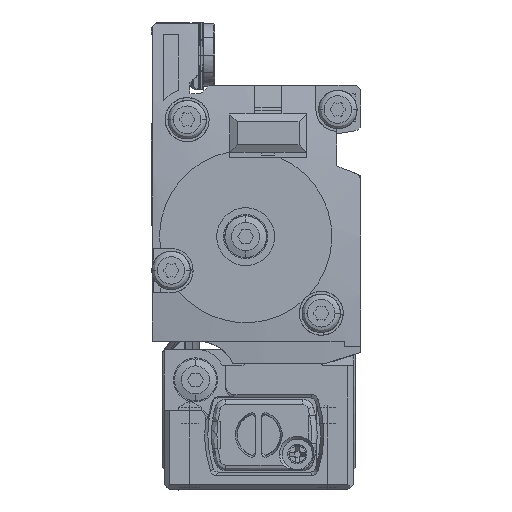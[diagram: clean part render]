
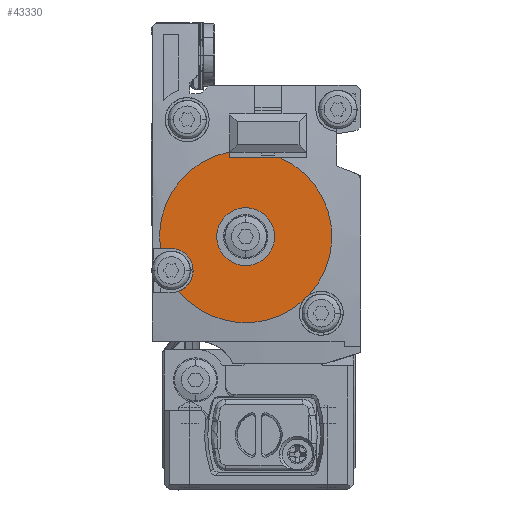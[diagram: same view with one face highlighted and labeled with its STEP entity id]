
A CAD part, left-side view. The second image highlights one B-rep face of the part: STEP entity #43330.
In plain terms, the highlighted planar face has unit normal (-1, 0, 0) as drawn and (0, 0, -1) by its records, which use the part's own axes.
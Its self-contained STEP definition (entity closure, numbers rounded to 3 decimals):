
#4770=CARTESIAN_POINT('',(-103.732,235.923,
-10.5));
#4780=VERTEX_POINT('',#4770);
#4810=CARTESIAN_POINT('',(-105.972,239.237,
-10.5));
#4820=DIRECTION('',(0.,0.,-1.));
#4830=DIRECTION('',(-1.,0.,0.));
#4840=AXIS2_PLACEMENT_3D('',#4810,#4820,#4830);
#4850=CIRCLE('',#4840,4.);
#4860=CARTESIAN_POINT('',(-102.627,237.044,
-10.5));
#4870=VERTEX_POINT('',#4860);
#4880=EDGE_CURVE('',#4870,#4780,#4850,.T.);
#13130=CARTESIAN_POINT('',(-94.188,211.959,
-10.5));
#13140=VERTEX_POINT('',#13130);
#13170=CARTESIAN_POINT('',(-98.188,211.959,
-10.5));
#13180=DIRECTION('',(0.,0.,-1.));
#13190=DIRECTION('',(-1.,0.,0.));
#13200=AXIS2_PLACEMENT_3D('',#13170,#13180,#13190);
#13210=CIRCLE('',#13200,4.);
#13220=CARTESIAN_POINT('',(-101.931,213.372,
-10.5));
#13230=VERTEX_POINT('',#13220);
#13240=EDGE_CURVE('',#13230,#13140,#13210,.T.);
#42720=CARTESIAN_POINT('',(-84.704,225.495,
-10.5));
#42730=DIRECTION('',(0.,0.,-1.));
#42740=DIRECTION('',(1.,0.,0.));
#42750=AXIS2_PLACEMENT_3D('',#42720,#42730,#42740);
#42760=PLANE('',#42750);
#42770=CARTESIAN_POINT('',(-92.05,225.495,
-10.5));
#42780=DIRECTION('',(0.,0.,-1.));
#42790=DIRECTION('',(-1.,0.,0.));
#42800=AXIS2_PLACEMENT_3D('',#42770,#42780,#42790);
#42810=CIRCLE('',#42800,5.25);
#42820=CARTESIAN_POINT('',(-97.3,225.495,
-10.5));
#42830=VERTEX_POINT('',#42820);
#42840=CARTESIAN_POINT('',(-86.8,225.495,
-10.5));
#42850=VERTEX_POINT('',#42840);
#42860=EDGE_CURVE('',#42830,#42850,#42810,.T.);
#42870=ORIENTED_EDGE('',*,*,#42860,.F.);
#42880=EDGE_CURVE('',#42850,#42830,#42810,.T.);
#42890=ORIENTED_EDGE('',*,*,#42880,.F.);
#42900=EDGE_LOOP('',(#42890,#42870));
#42910=FACE_BOUND('',#42900,.T.);
#42920=ORIENTED_EDGE('',*,*,#4880,.F.);
#42930=CARTESIAN_POINT('',(-92.051,225.509,
-10.5));
#42940=DIRECTION('',(0.,0.,-1.));
#42950=DIRECTION('',(1.,0.,0.));
#42960=AXIS2_PLACEMENT_3D('',#42930,#42940,#42950);
#42970=CIRCLE('',#42960,15.65);
#42980=EDGE_CURVE('',#13230,#4780,#42970,.T.);
#42990=ORIENTED_EDGE('',*,*,#42980,.T.);
#43000=ORIENTED_EDGE('',*,*,#13240,.F.);
#43010=CARTESIAN_POINT('',(-94.188,225.509,
-10.5));
#43020=DIRECTION('',(0.,1.,0.));
#43030=VECTOR('',#43020,1.);
#43040=LINE('',#43010,#43030);
#43050=CARTESIAN_POINT('',(-94.188,210.006,
-10.5));
#43060=VERTEX_POINT('',#43050);
#43070=EDGE_CURVE('',#43060,#13140,#43040,.T.);
#43080=ORIENTED_EDGE('',*,*,#43070,.T.);
#43090=CARTESIAN_POINT('',(-76.678,222.58,
-10.5));
#43100=VERTEX_POINT('',#43090);
#43110=EDGE_CURVE('',#43100,#43060,#42970,.T.);
#43120=ORIENTED_EDGE('',*,*,#43110,.T.);
#43130=CARTESIAN_POINT('',(-137.342,222.58,
-10.5));
#43140=DIRECTION('',(-1.,0.,0.));
#43150=VECTOR('',#43140,1.);
#43160=LINE('',#43130,#43150);
#43170=CARTESIAN_POINT('',(-77.669,222.58,
-10.5));
#43180=VERTEX_POINT('',#43170);
#43190=EDGE_CURVE('',#43100,#43180,#43160,.T.);
#43200=ORIENTED_EDGE('',*,*,#43190,.F.);
#43210=CARTESIAN_POINT('',(-77.669,225.509,
-10.5));
#43220=DIRECTION('',(0.,-1.,0.));
#43230=VECTOR('',#43220,1.);
#43240=LINE('',#43210,#43230);
#43250=CARTESIAN_POINT('',(-77.669,231.679,
-10.5));
#43260=VERTEX_POINT('',#43250);
#43270=EDGE_CURVE('',#43260,#43180,#43240,.T.);
#43280=ORIENTED_EDGE('',*,*,#43270,.T.);
#43290=EDGE_CURVE('',#4870,#43260,#42970,.T.);
#43300=ORIENTED_EDGE('',*,*,#43290,.T.);
#43310=EDGE_LOOP('',(#43300,#43280,#43200,#43120,#43080,#43000,#42990,
#42920));
#43320=FACE_OUTER_BOUND('',#43310,.T.);
#43330=ADVANCED_FACE('',(#42910,#43320),#42760,.T.);
